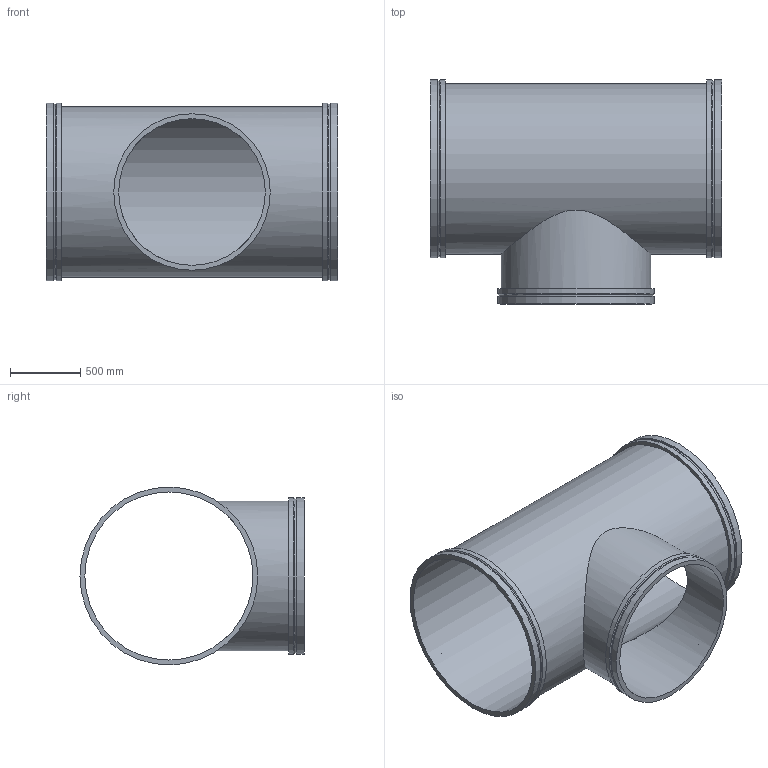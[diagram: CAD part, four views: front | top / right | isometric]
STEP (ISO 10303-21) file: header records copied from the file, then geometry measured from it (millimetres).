
FILE_DESCRIPTION(/* description */ ('VIC REDUCING TEE No W025 VR','CAx-IF Rec.Pracs.---Representation and Presentation of Product Manufacturing Information (PMI)---4.0---2014-10-13'),/* implementation_level */ '2;1');
FILE_NAME(/* name */ 'C:\Users\kkamble\AppData\Roaming\Autodesk\ApplicationPlugins\Back Up\Victaulic_Vic-Ring_Tee Reducing_No W25 VR (AGR)\Victaulic_Vic-Ring_Tee Reducing_No W25 VR (AGR)_48.0x42.0 (1200x1050).stp',/* time_stamp */ '2020-09-10T11:57:28+05:00',/* author */ ('mchristi'),/* organization */ ('Victaulic'),/* preprocessor_version */ 'ST-DEVELOPER v17.2',/* originating_system */ 'Autodesk Inventor 2019',/* authorisation */ '');
FILE_SCHEMA (('AP242_MANAGED_MODEL_BASED_3D_ENGINEERING_MIM_LF { 1 0 10303 442 1 1 4 }'));
Length unit declared in the file: inch
Products named in the file (1): W25 VR-48.0x42.0
Bounding box: 2082.8 x 1600.2 x 1270 mm (x, y, z)
Volume: 111053212 mm3; surface area: 18014479.2 mm2
Topology: 1 solids, 1 shells, 25 faces, 68 edges, 52 vertices
Faces by surface type: cylinder 13, plane 9, cone 3
Full cylindrical faces by diameter (mm): 1047.75 x1, 1066.8 x1, 1101.725 x1, 1117.6 x2, 1200.15 x1, 1219.2 x1, 1254.125 x2, 1270 x4
Entity records: 1267 total; most frequent: CARTESIAN_POINT 423, DIRECTION 190, ORIENTED_EDGE 136, AXIS2_PLACEMENT_3D 87, EDGE_CURVE 68, VERTEX_POINT 52, CIRCLE 48, EDGE_LOOP 36
